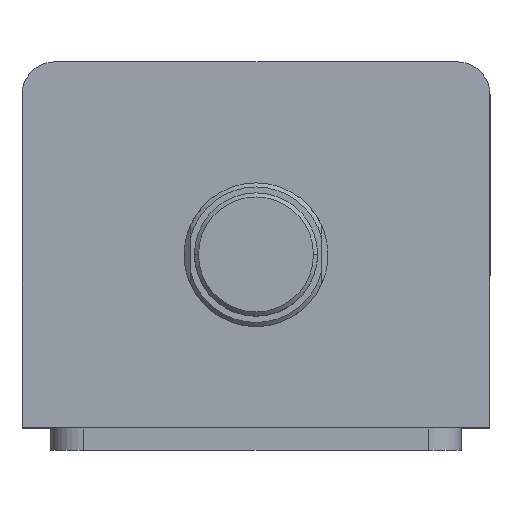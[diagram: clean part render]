
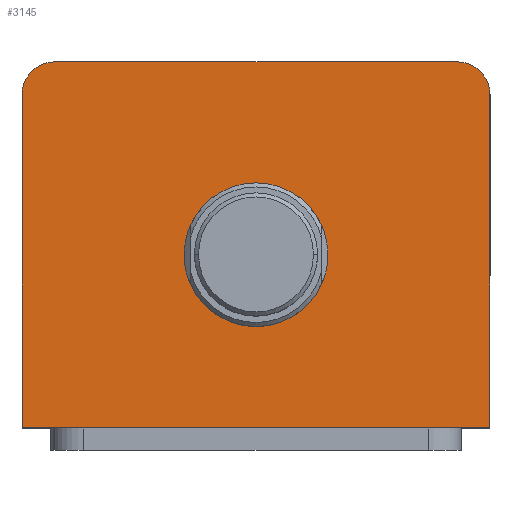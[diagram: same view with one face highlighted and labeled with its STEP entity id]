
A CAD part, top view. The second image highlights one B-rep face of the part: STEP entity #3145.
In plain terms, the highlighted planar face has unit normal (0, 0, 1).
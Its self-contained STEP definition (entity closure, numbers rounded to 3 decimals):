
#65 = VECTOR ( 'NONE', #245, 1000. ) ;
#66 = LINE ( 'NONE', #297, #65 ) ;
#229 = AXIS2_PLACEMENT_3D ( 'NONE', #336, #335, #334 ) ;
#245 = DIRECTION ( 'NONE',  ( 1., 0., 0. ) ) ;
#267 = DIRECTION ( 'NONE',  ( 0., -1., 0. ) ) ;
#268 = CARTESIAN_POINT ( 'NONE',  ( -57., 44.5, 112. ) ) ;
#297 = CARTESIAN_POINT ( 'NONE',  ( -57., -44.5, 112. ) ) ;
#334 = DIRECTION ( 'NONE',  ( 1., 0., 0. ) ) ;
#335 = DIRECTION ( 'NONE',  ( 0., 0., 1. ) ) ;
#336 = CARTESIAN_POINT ( 'NONE',  ( 49., 36.5, 112. ) ) ;
#362 = DIRECTION ( 'NONE',  ( -1., 0., 0. ) ) ;
#363 = CARTESIAN_POINT ( 'NONE',  ( -57., 44.5, 112. ) ) ;
#412 = DIRECTION ( 'NONE',  ( 1., 0., 0. ) ) ;
#413 = DIRECTION ( 'NONE',  ( 0., 0., 1. ) ) ;
#414 = CARTESIAN_POINT ( 'NONE',  ( -49., 36.5, 112. ) ) ;
#438 = DIRECTION ( 'NONE',  ( 0., 1., 0. ) ) ;
#439 = CARTESIAN_POINT ( 'NONE',  ( 57., 44.5, 112. ) ) ;
#466 = EDGE_CURVE ( 'NONE', #2634, #2604, #1338, .T. ) ;
#469 = EDGE_CURVE ( 'NONE', #2604, #2634, #1335, .T. ) ;
#561 = DIRECTION ( 'NONE',  ( 0., 0., 1. ) ) ;
#569 = DIRECTION ( 'NONE',  ( 1., 0., 0. ) ) ;
#570 = CARTESIAN_POINT ( 'NONE',  ( 0., -2.5, 112. ) ) ;
#589 = DIRECTION ( 'NONE',  ( 1., 0., 0. ) ) ;
#590 = DIRECTION ( 'NONE',  ( 0., 0., 1. ) ) ;
#592 = CARTESIAN_POINT ( 'NONE',  ( 0., -2.5, 112. ) ) ;
#748 = VECTOR ( 'NONE', #267, 1000. ) ;
#751 = LINE ( 'NONE', #268, #748 ) ;
#775 = CIRCLE ( 'NONE', #229, 8. ) ;
#804 = AXIS2_PLACEMENT_3D ( 'NONE', #570, #561, #569 ) ;
#806 = AXIS2_PLACEMENT_3D ( 'NONE', #592, #590, #589 ) ;
#957 = DIRECTION ( 'NONE',  ( 1., 0., 0. ) ) ;
#958 = DIRECTION ( 'NONE',  ( 0., 0., 1. ) ) ;
#964 = PLANE ( 'NONE',  #2796 ) ;
#969 = CARTESIAN_POINT ( 'NONE',  ( 0., 0., 112. ) ) ;
#1080 = EDGE_CURVE ( 'NONE', #2613, #2590, #66, .T. ) ;
#1087 = CIRCLE ( 'NONE', #2245, 8. ) ;
#1094 = VECTOR ( 'NONE', #438, 1000. ) ;
#1097 = LINE ( 'NONE', #439, #1094 ) ;
#1125 = EDGE_CURVE ( 'NONE', #2590, #2635, #1097, .T. ) ;
#1131 = EDGE_CURVE ( 'NONE', #2646, #2652, #1087, .T. ) ;
#1147 = EDGE_CURVE ( 'NONE', #2645, #2646, #2331, .T. ) ;
#1152 = EDGE_CURVE ( 'NONE', #2635, #2645, #775, .T. ) ;
#1335 = CIRCLE ( 'NONE', #804, 17.5 ) ;
#1338 = CIRCLE ( 'NONE', #806, 17.5 ) ;
#1405 = EDGE_LOOP ( 'NONE', ( #1689, #1690 ) ) ;
#1407 = EDGE_LOOP ( 'NONE', ( #1695, #1811, #1842, #1854, #1677, #1647 ) ) ;
#1647 = ORIENTED_EDGE ( 'NONE', *, *, #1152, .T. ) ;
#1677 = ORIENTED_EDGE ( 'NONE', *, *, #1125, .T. ) ;
#1689 = ORIENTED_EDGE ( 'NONE', *, *, #469, .F. ) ;
#1690 = ORIENTED_EDGE ( 'NONE', *, *, #466, .F. ) ;
#1695 = ORIENTED_EDGE ( 'NONE', *, *, #1147, .T. ) ;
#1811 = ORIENTED_EDGE ( 'NONE', *, *, #1131, .T. ) ;
#1842 = ORIENTED_EDGE ( 'NONE', *, *, #1870, .T. ) ;
#1854 = ORIENTED_EDGE ( 'NONE', *, *, #1080, .T. ) ;
#1870 = EDGE_CURVE ( 'NONE', #2652, #2613, #751, .T. ) ;
#1982 = FACE_BOUND ( 'NONE', #1405, .T. ) ;
#1988 = FACE_OUTER_BOUND ( 'NONE', #1407, .T. ) ;
#2245 = AXIS2_PLACEMENT_3D ( 'NONE', #414, #413, #412 ) ;
#2331 = LINE ( 'NONE', #363, #2334 ) ;
#2334 = VECTOR ( 'NONE', #362, 1000. ) ;
#2590 = VERTEX_POINT ( 'NONE', #3000 ) ;
#2604 = VERTEX_POINT ( 'NONE', #3476 ) ;
#2613 = VERTEX_POINT ( 'NONE', #3453 ) ;
#2634 = VERTEX_POINT ( 'NONE', #3368 ) ;
#2635 = VERTEX_POINT ( 'NONE', #3365 ) ;
#2645 = VERTEX_POINT ( 'NONE', #3328 ) ;
#2646 = VERTEX_POINT ( 'NONE', #3322 ) ;
#2652 = VERTEX_POINT ( 'NONE', #3499 ) ;
#2796 = AXIS2_PLACEMENT_3D ( 'NONE', #969, #958, #957 ) ;
#3000 = CARTESIAN_POINT ( 'NONE',  ( 57., -44.5, 112. ) ) ;
#3145 = ADVANCED_FACE ( 'NONE', ( #1982, #1988 ), #964, .T. ) ;
#3322 = CARTESIAN_POINT ( 'NONE',  ( -49., 44.5, 112. ) ) ;
#3328 = CARTESIAN_POINT ( 'NONE',  ( 49., 44.5, 112. ) ) ;
#3365 = CARTESIAN_POINT ( 'NONE',  ( 57., 36.5, 112. ) ) ;
#3368 = CARTESIAN_POINT ( 'NONE',  ( -17.5, -2.5, 112. ) ) ;
#3453 = CARTESIAN_POINT ( 'NONE',  ( -57., -44.5, 112. ) ) ;
#3476 = CARTESIAN_POINT ( 'NONE',  ( 17.5, -2.5, 112. ) ) ;
#3499 = CARTESIAN_POINT ( 'NONE',  ( -57., 36.5, 112. ) ) ;
